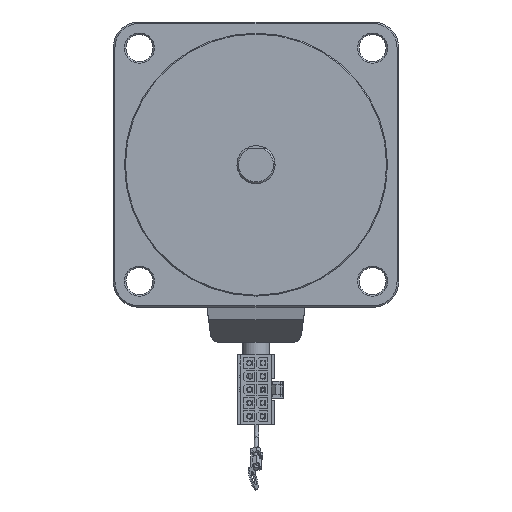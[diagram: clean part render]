
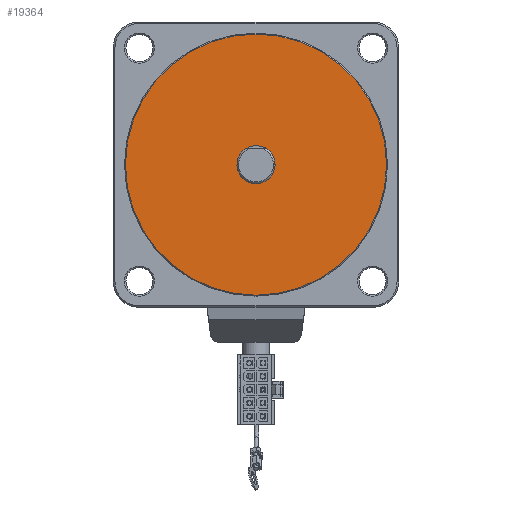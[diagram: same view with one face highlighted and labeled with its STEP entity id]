
A CAD part, front view. The second image highlights one B-rep face of the part: STEP entity #19364.
In plain terms, the highlighted planar face has unit normal (0, -1, 0).
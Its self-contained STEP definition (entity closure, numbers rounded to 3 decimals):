
#16585=CARTESIAN_POINT('',(6.,-2.0,0.));
#16586=VERTEX_POINT('',#16585);
#16587=CARTESIAN_POINT('',(0.0,-2.0,0.0));
#16588=DIRECTION('',(0.0,1.0,0.0));
#16589=DIRECTION('',(-1.0,0.0,0.0));
#16590=AXIS2_PLACEMENT_3D('',#16587,#16588,#16589);
#16591=CIRCLE('',#16590,6.);
#16592=EDGE_CURVE('',#16586,#16586,#16591,.T.);
#19318=CARTESIAN_POINT('',(41.2,-2.0,0.));
#19319=VERTEX_POINT('',#19318);
#19320=CARTESIAN_POINT('',(0.0,-2.0,0.0));
#19321=DIRECTION('',(0.0,1.0,0.0));
#19322=DIRECTION('',(-1.0,0.0,0.0));
#19323=AXIS2_PLACEMENT_3D('',#19320,#19321,#19322);
#19324=CIRCLE('',#19323,41.2);
#19325=EDGE_CURVE('',#19319,#19319,#19324,.T.);
#19353=CARTESIAN_POINT('',(0.0,-2.0,0.0));
#19354=DIRECTION('',(0.0,1.0,0.0));
#19355=DIRECTION('',(0.0,0.0,1.0));
#19356=AXIS2_PLACEMENT_3D('',#19353,#19354,#19355);
#19357=PLANE('',#19356);
#19358=ORIENTED_EDGE('',*,*,#19325,.F.);
#19359=EDGE_LOOP('',(#19358));
#19360=FACE_OUTER_BOUND('',#19359,.T.);
#19361=ORIENTED_EDGE('',*,*,#16592,.T.);
#19362=EDGE_LOOP('',(#19361));
#19363=FACE_BOUND('',#19362,.T.);
#19364=ADVANCED_FACE('',(#19360,#19363),#19357,.F.);
